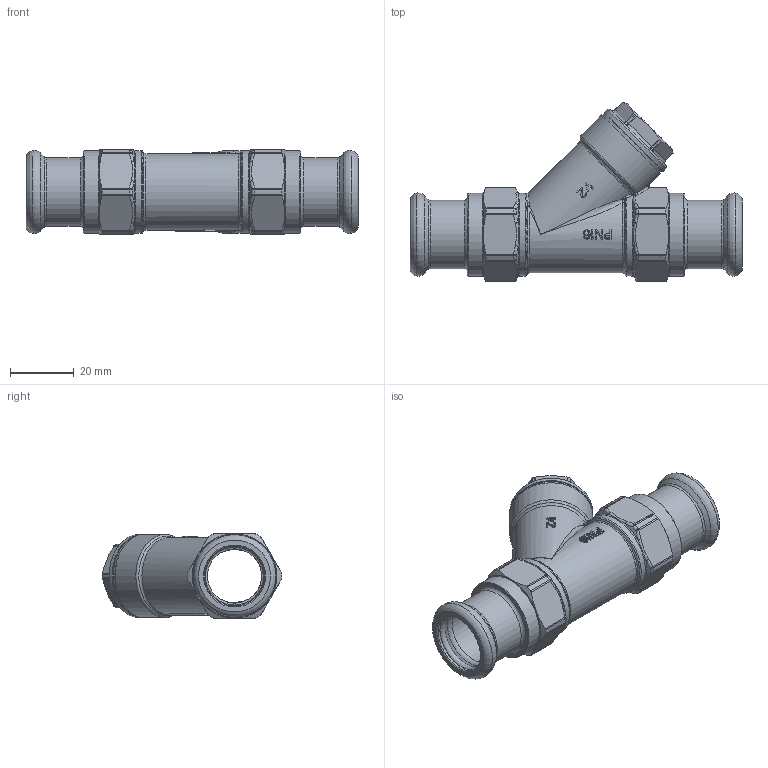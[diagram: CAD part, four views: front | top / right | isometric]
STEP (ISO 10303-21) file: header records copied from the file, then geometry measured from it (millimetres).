
FILE_DESCRIPTION((''),'2;1');
FILE_NAME('P:\Fastrack\53972_CRANE 3D\Press Fit\D298\D298-PF_18MM\D298-PF_18MM.stp','2012-02-03T13:52:18',('dcole'),(''),'Autodesk Inventor 2008','Autodesk Inventor 2008','');
FILE_SCHEMA(('AUTOMOTIVE_DESIGN { 1 0 10303 214 1 1 1 1 }'));
Length unit declared in the file: millimetre
Products named in the file (1): D298-PF_18MM
Bounding box: 104 x 56.14 x 26.5 mm (x, y, z)
Volume: 27869.7 mm3; surface area: 22248.3 mm2
Topology: 1 solids, 2 shells, 627 faces, 1594 edges, 980 vertices
Faces by surface type: bspline 239, plane 151, cylinder 112, cone 53, torus 48, sphere 24
Full cylindrical faces by diameter (mm): 15.2 x1, 18.2 x2, 18.4 x1, 18.631 x2, 18.8 x2, 19.6 x1, 20.38 x1, 21.45 x2, 22 x2, 22.1 x2, 22.4 x1, 25.5 x2, 26 x5
Entity records: 27863 total; most frequent: CARTESIAN_POINT 13789, ORIENTED_EDGE 2956, DIRECTION 2435, EDGE_CURVE 1478, AXIS2_PLACEMENT_3D 973, VERTEX_POINT 958, EDGE_LOOP 735, FACE_OUTER_BOUND 627
